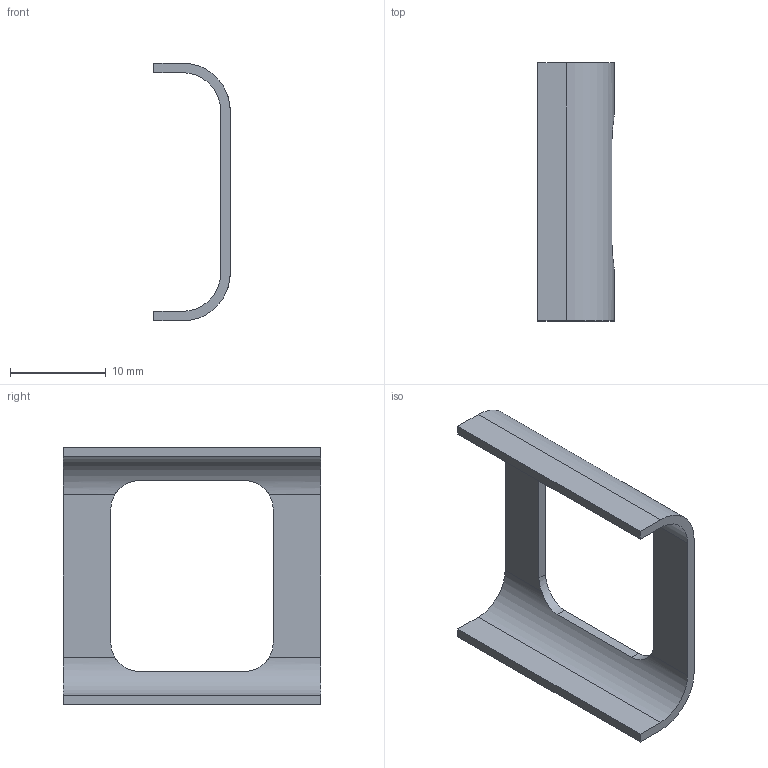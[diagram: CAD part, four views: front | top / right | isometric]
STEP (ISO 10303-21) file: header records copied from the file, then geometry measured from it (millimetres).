
FILE_DESCRIPTION(('Open CASCADE Model'),'2;1');
FILE_NAME('Open CASCADE Shape Model','2026-09-06T11:32:51',('Author'),( 'Open CASCADE'),'Open CASCADE STEP processor 7.7','Open CASCADE 7.7' ,'Unknown');
FILE_SCHEMA(('AUTOMOTIVE_DESIGN { 1 0 10303 214 1 1 1 1 }'));
Length unit declared in the file: millimetre
Products named in the file (1): Open CASCADE STEP translator 7.7 1
Bounding box: 8 x 27 x 27 mm (x, y, z)
Volume: 669.6 mm3; surface area: 1538.1 mm2
Topology: 1 solids, 1 shells, 24 faces, 72 edges, 48 vertices
Faces by surface type: plane 16, cylinder 8
Entity records: 2182 total; most frequent: CARTESIAN_POINT 853, DIRECTION 214, ORIENTED_EDGE 144, PCURVE 144, DEFINITIONAL_REPRESENTATION 144, LINE 124, VECTOR 124, EDGE_CURVE 72
